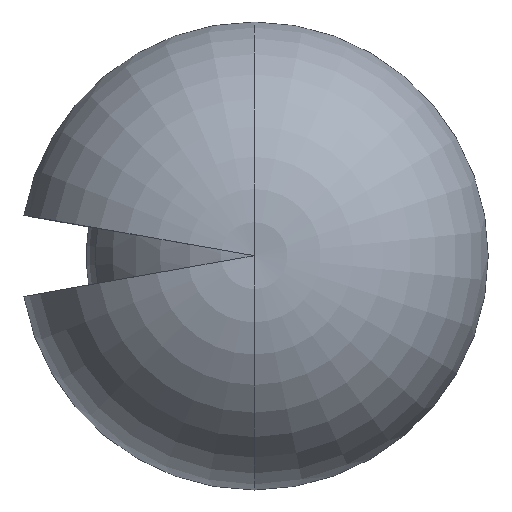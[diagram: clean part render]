
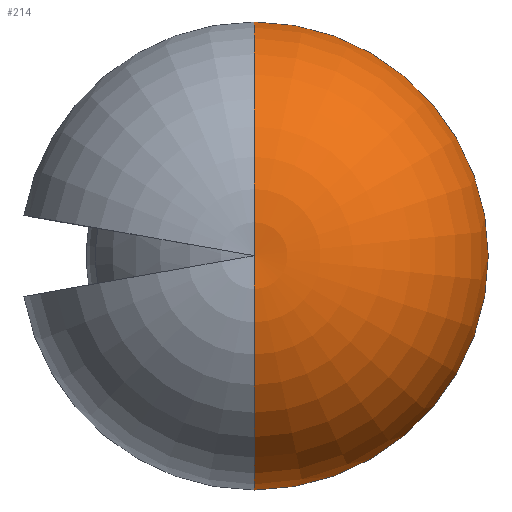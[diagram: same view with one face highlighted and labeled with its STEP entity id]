
A CAD part, top view. The second image highlights one B-rep face of the part: STEP entity #214.
In plain terms, the highlighted toroidal (fillet/blend) face has major radius 320 mm and minor radius 2335.02 mm.
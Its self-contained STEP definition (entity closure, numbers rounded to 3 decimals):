
#16 = VERTEX_POINT ( 'NONE', #142 ) ;
#52 = AXIS2_PLACEMENT_3D ( 'NONE', #85, #231, #76 ) ;
#55 = EDGE_LOOP ( 'NONE', ( #304, #434, #450 ) ) ;
#76 = DIRECTION ( 'NONE',  ( 0., 0., 1. ) ) ;
#85 = CARTESIAN_POINT ( 'NONE',  ( 0., 320., 780. ) ) ;
#87 = DIRECTION ( 'NONE',  ( 0., 1., 0. ) ) ;
#114 = EDGE_CURVE ( 'NONE', #16, #283, #308, .T. ) ;
#123 = AXIS2_PLACEMENT_3D ( 'NONE', #387, #428, #273 ) ;
#127 = DIRECTION ( 'NONE',  ( 0., 1., 0. ) ) ;
#142 = CARTESIAN_POINT ( 'NONE',  ( 0., 0., 3092.994 ) ) ;
#156 = AXIS2_PLACEMENT_3D ( 'NONE', #469, #369, #127 ) ;
#182 = DIRECTION ( 'NONE',  ( 1., 0., 0. ) ) ;
#207 = VERTEX_POINT ( 'NONE', #391 ) ;
#214 = ADVANCED_FACE ( 'NONE', ( #511 ), #479, .T. ) ;
#231 = DIRECTION ( 'NONE',  ( -1., 0., 0. ) ) ;
#245 = CARTESIAN_POINT ( 'NONE',  ( 0., -320., 780. ) ) ;
#254 = CIRCLE ( 'NONE', #319, 2335.024 ) ;
#273 = DIRECTION ( 'NONE',  ( 0., 1., 0. ) ) ;
#281 = EDGE_CURVE ( 'NONE', #16, #207, #254, .T. ) ;
#283 = VERTEX_POINT ( 'NONE', #367 ) ;
#304 = ORIENTED_EDGE ( 'NONE', *, *, #114, .F. ) ;
#308 = CIRCLE ( 'NONE', #52, 2335.024 ) ;
#310 = CIRCLE ( 'NONE', #123, 2646.139 ) ;
#319 = AXIS2_PLACEMENT_3D ( 'NONE', #245, #182, #87 ) ;
#367 = CARTESIAN_POINT ( 'NONE',  ( 0., 2646.139, 983.511 ) ) ;
#369 = DIRECTION ( 'NONE',  ( 0., 0., -1. ) ) ;
#387 = CARTESIAN_POINT ( 'NONE',  ( 0., 0., 983.511 ) ) ;
#391 = CARTESIAN_POINT ( 'NONE',  ( 0., -2646.139, 983.511 ) ) ;
#392 = EDGE_CURVE ( 'NONE', #283, #207, #310, .T. ) ;
#428 = DIRECTION ( 'NONE',  ( 0., 0., -1. ) ) ;
#434 = ORIENTED_EDGE ( 'NONE', *, *, #281, .T. ) ;
#450 = ORIENTED_EDGE ( 'NONE', *, *, #392, .F. ) ;
#469 = CARTESIAN_POINT ( 'NONE',  ( 0., 0., 780. ) ) ;
#479 = TOROIDAL_SURFACE ( 'NONE', #156, 320., 2335.024 ) ;
#511 = FACE_OUTER_BOUND ( 'NONE', #55, .T. ) ;
